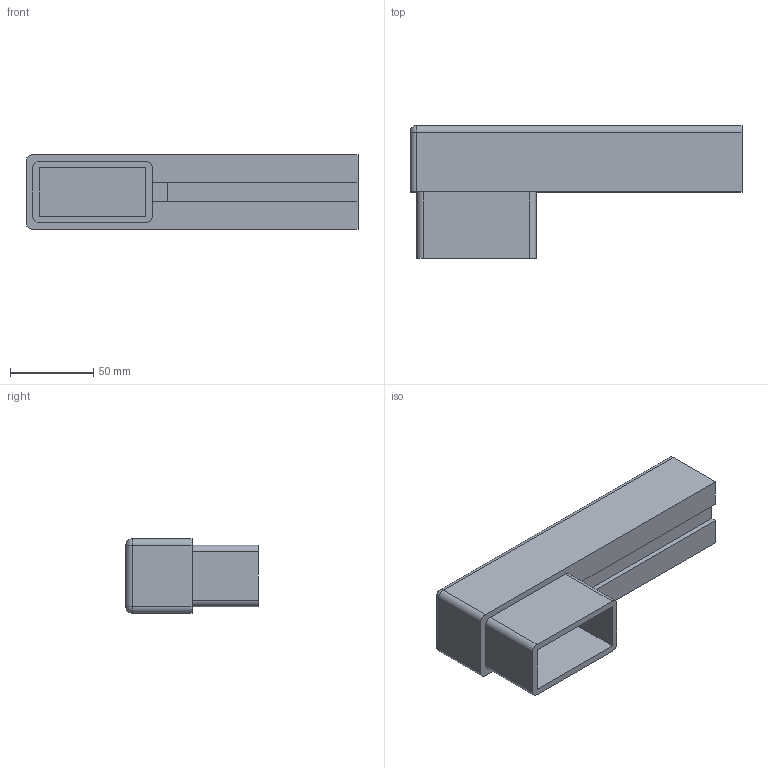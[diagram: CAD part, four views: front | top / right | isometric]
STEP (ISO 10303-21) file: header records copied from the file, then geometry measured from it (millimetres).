
FILE_DESCRIPTION (( 'STEP AP203' ), '1' );
FILE_NAME ('STL-Stab waagerecht.STEP', '2020-10-10T10:06:23', ( '' ), ( '' ), 'SwSTEP 2.0', 'SolidWorks 2018', '' );
FILE_SCHEMA (( 'CONFIG_CONTROL_DESIGN' ));
Length unit declared in the file: millimetre
Products named in the file (1): STL-Stab waagerecht
Bounding box: 200 x 80 x 45 mm (x, y, z)
Volume: 251209.4 mm3; surface area: 68289.7 mm2
Topology: 1 solids, 1 shells, 44 faces, 119 edges, 76 vertices
Faces by surface type: plane 33, cylinder 9, sphere 2
Entity records: 1432 total; most frequent: CARTESIAN_POINT 238, ORIENTED_EDGE 234, DIRECTION 225, EDGE_CURVE 117, VECTOR 99, LINE 99, VERTEX_POINT 76, AXIS2_PLACEMENT_3D 63
